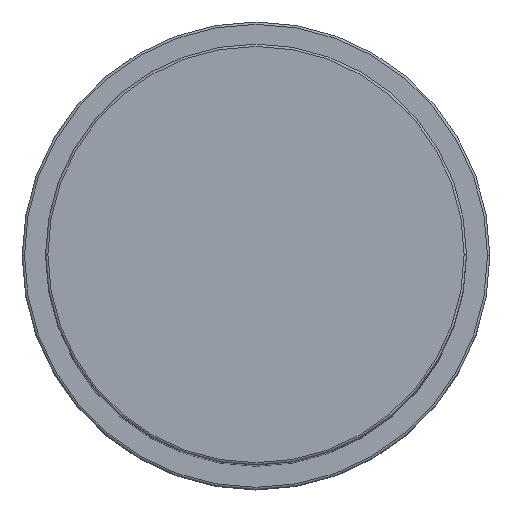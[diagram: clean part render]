
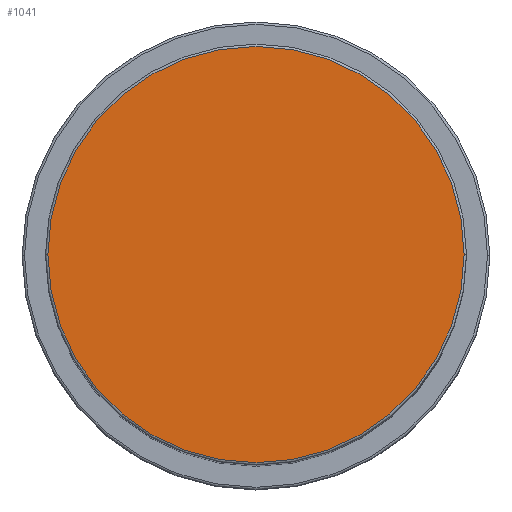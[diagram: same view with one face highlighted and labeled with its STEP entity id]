
A CAD part, top view. The second image highlights one B-rep face of the part: STEP entity #1041.
In plain terms, the highlighted planar face has unit normal (0, 0, 1).
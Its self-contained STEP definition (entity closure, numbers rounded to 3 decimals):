
#30 = DIRECTION ( 'NONE',  ( 0., 0., 1. ) ) ;
#70 = DIRECTION ( 'NONE',  ( 0., 0., 1. ) ) ;
#178 = DIRECTION ( 'NONE',  ( 1., 0., 0. ) ) ;
#182 = FACE_OUTER_BOUND ( 'NONE', #1410, .T. ) ;
#221 = DIRECTION ( 'NONE',  ( 1., 0., 0. ) ) ;
#534 = CARTESIAN_POINT ( 'NONE',  ( 44.5, 0., 174. ) ) ;
#575 = ORIENTED_EDGE ( 'NONE', *, *, #1474, .T. ) ;
#1031 = CIRCLE ( 'NONE', #1320, 44.5 ) ;
#1041 = ADVANCED_FACE ( 'NONE', ( #182 ), #1960, .T. ) ;
#1151 = EDGE_CURVE ( 'NONE', #1712, #1521, #1031, .T. ) ;
#1214 = AXIS2_PLACEMENT_3D ( 'NONE', #1625, #30, #178 ) ;
#1320 = AXIS2_PLACEMENT_3D ( 'NONE', #1656, #70, #221 ) ;
#1328 = CARTESIAN_POINT ( 'NONE',  ( 0., 0., 174. ) ) ;
#1353 = CIRCLE ( 'NONE', #1214, 44.5 ) ;
#1410 = EDGE_LOOP ( 'NONE', ( #1435, #575 ) ) ;
#1435 = ORIENTED_EDGE ( 'NONE', *, *, #1151, .T. ) ;
#1474 = EDGE_CURVE ( 'NONE', #1521, #1712, #1353, .T. ) ;
#1521 = VERTEX_POINT ( 'NONE', #2016 ) ;
#1625 = CARTESIAN_POINT ( 'NONE',  ( 0., 0., 174. ) ) ;
#1656 = CARTESIAN_POINT ( 'NONE',  ( 0., 0., 174. ) ) ;
#1712 = VERTEX_POINT ( 'NONE', #534 ) ;
#1930 = AXIS2_PLACEMENT_3D ( 'NONE', #1328, #1941, #1936 ) ;
#1936 = DIRECTION ( 'NONE',  ( 1., 0., 0. ) ) ;
#1941 = DIRECTION ( 'NONE',  ( 0., 0., 1. ) ) ;
#1960 = PLANE ( 'NONE',  #1930 ) ;
#2016 = CARTESIAN_POINT ( 'NONE',  ( -44.5, 0., 174. ) ) ;
